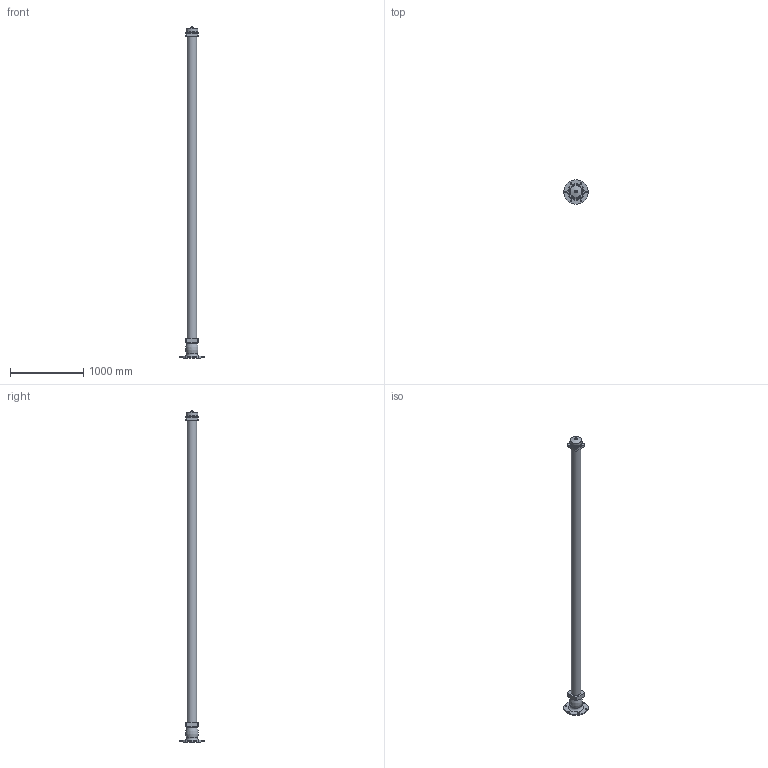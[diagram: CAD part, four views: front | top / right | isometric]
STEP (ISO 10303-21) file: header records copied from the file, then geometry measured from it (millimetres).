
FILE_DESCRIPTION(('STEP AP203'), '1');
FILE_NAME('Ãèäðàíò GPP 4500 ïîæàðíûé ïîäçåìíûé', '', ('UNSPECIFIED'), ('UNSPECIFIED'), 'ASCON STEP Converter 1.6', 'ASCON Math Kernel', '');
FILE_SCHEMA(('CONFIG_CONTROL_DESIGN'));
Length unit declared in the file: millimetre
Bounding box: 330 x 330 x 4522 mm (x, y, z)
Volume: 63483186 mm3; surface area: 2124011.5 mm2
Topology: 1 solids, 1 shells, 47 faces, 104 edges, 67 vertices
Faces by surface type: plane 26, cylinder 12, cone 7, torus 2
Full cylindrical faces by diameter (mm): 20 x1, 22 x6, 129 x1, 142 x1, 143 x1, 157.302 x1, 160 x1
Entity records: 1617 total; most frequent: DIRECTION 212, CARTESIAN_POINT 196, ORIENTED_EDGE 164, EDGE_LOOP 88, AXIS2_PLACEMENT_3D 82, EDGE_CURVE 82, VERTEX_POINT 66, COLOUR_RGB 48
